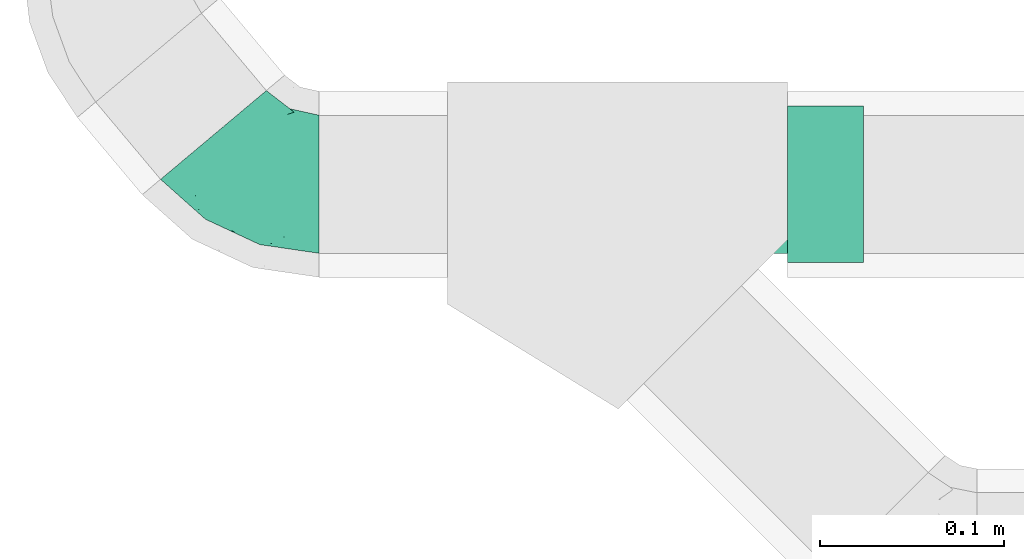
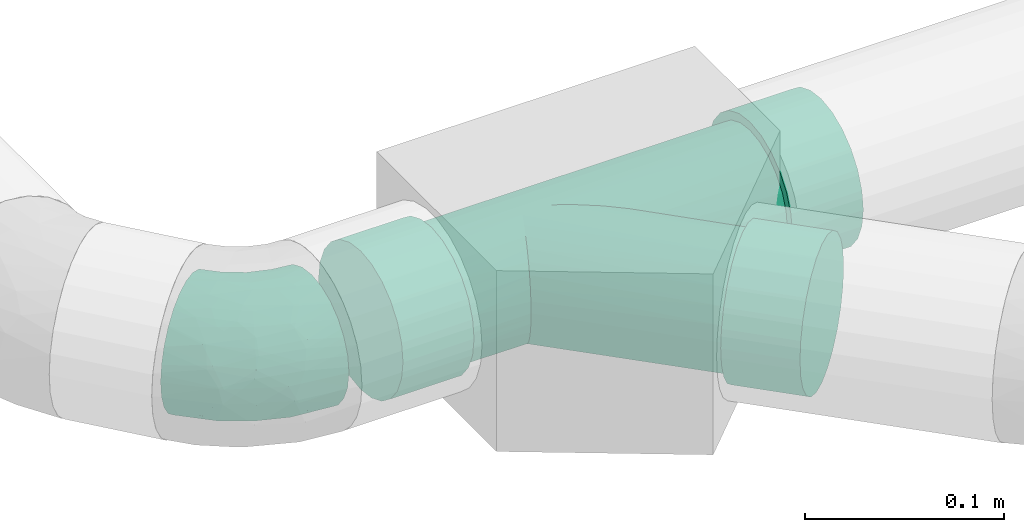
# One storey, part 143 of 156: 2 flow fittings.
"""IFC2X3 building model written with IfcOpenShell, lengths in millimetres."""

from ifc_helpers import new_model, entity, si_unit, converted_unit, derived_unit, direction, frame, origin_with_axes, place, context, subcontext, project, spatial, open_shell, surface_model, source, transform, mapped, type_object, element, save


model = new_model("IFC2X3")

# Units and contexts
model_context = context("Model", 3, precision=0.01, world=frame((0.0, 4.29681676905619e-09, 0.0)), true_north=direction((4.01073788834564e-13, 1.0)))
plan_context = context("Plan", 3, precision=0.01, world=frame((0.0, 4.29681676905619e-09, 0.0)), true_north=direction((4.01073788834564e-13, 1.0)))
body_context = subcontext(model_context, "Body", "Model", "MODEL_VIEW")
ifc_project = project(units=[converted_unit("PLANEANGLEUNIT", "DEGREE", entity("IfcPositiveLengthMeasure", 0.0174532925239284), si_unit("PLANEANGLEUNIT", "RADIAN"), dimensions=[0, 0, 0, 0, 0, 0, 0]), si_unit("AREAUNIT", "SQUARE_METRE"), si_unit("LENGTHUNIT", "METRE", prefix="MILLI"), si_unit("MASSUNIT", "GRAM", prefix="KILO"), si_unit("POWERUNIT", "WATT"), si_unit("PRESSUREUNIT", "PASCAL", prefix="KILO"), si_unit("FORCEUNIT", "NEWTON", prefix="KILO"), si_unit("ELECTRICVOLTAGEUNIT", "VOLT"), si_unit("ELECTRICCURRENTUNIT", "AMPERE"), si_unit("THERMODYNAMICTEMPERATUREUNIT", "DEGREE_CELSIUS"), si_unit("TIMEUNIT", "SECOND"), si_unit("VOLUMEUNIT", "CUBIC_METRE"), derived_unit("LINEARVELOCITYUNIT", [(si_unit("LENGTHUNIT", "METRE"), 1), (si_unit("TIMEUNIT", "SECOND"), -1)]), derived_unit("VOLUMETRICFLOWRATEUNIT", [(si_unit("VOLUMEUNIT", "CUBIC_METRE"), 1), (si_unit("TIMEUNIT", "SECOND"), -1)]), derived_unit("THERMALTRANSMITTANCEUNIT", [(si_unit("POWERUNIT", "WATT"), 1), (si_unit("THERMODYNAMICTEMPERATUREUNIT", "KELVIN"), -1), (si_unit("AREAUNIT", "SQUARE_METRE"), -1)]), derived_unit("SOUNDPRESSUREUNIT", [(si_unit("PRESSUREUNIT", "PASCAL"), 1)])], contexts=[model_context, plan_context])

# Site, building, storey
site_placement = place(None, frame((0.0, -4.29681676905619e-09, 0.0), z_axis=(0.0, 0.0, 1.0), x_axis=(1.0, 0.0, 0.0)))
site = spatial("IfcSite", under=ifc_project, at=site_placement, CompositionType="ELEMENT")
building_placement = place(site_placement, frame((0.0, 4.29681676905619e-09, 0.0), z_axis=(0.0, 0.0, 1.0), x_axis=(1.0, 0.0, 0.0)))
building = spatial("IfcBuilding", under=site, at=building_placement, Name="mc-building", CompositionType="ELEMENT")
storey_placement = place(building_placement, frame((0.0, 0.0, 205200.0), z_axis=(0.0, 0.0, 1.0), x_axis=(1.0, 0.0, 0.0)))
storey = spatial("IfcBuildingStorey", under=building, at=storey_placement, Name="Nivå D + 1,2 m", CompositionType="ELEMENT", Elevation=205200.0)

# Flow fittings
pipe_fitting_type_1 = type_object("IfcPipeFittingType", Name="magi_pipe_elbow_short_001", PredefinedType="BEND")
shared_shape_1 = source(origin_with_axes(), body_context, "Body", "SurfaceModel", [
    surface_model("IfcShellBasedSurfaceModel", [(-34.97307, 18.75, -32.47595), (-34.97307, 9.70571, -36.22222), (-34.97307, 0.0, -37.5), (-34.97307, 26.5165, -26.5165), (-34.97307, 36.22222, -9.70571), (-34.97307, 32.47595, -18.75), (-34.97307, -26.5165, -26.5165), (-34.97307, -32.47595, -18.75), (-34.97307, -18.75, -32.47595), (-34.97307, -9.70571, -36.22222), (-34.97307, -36.22222, -9.70571), (-34.97307, -37.5, 0.0), (-34.97307, -36.22222, 9.70571), (-34.97307, 36.22222, 9.70571), (-34.97307, 37.5, 0.0), (-34.97307, 26.5165, 26.5165), (-34.97307, 32.47595, 18.75), (-34.97307, 9.70571, 36.22222), (-34.97307, 18.75, 32.47595), (-34.97307, 0.0, 37.5), (-34.97307, -32.47595, 18.75), (-34.97307, -26.5165, 26.5165), (-34.97307, -18.75, 32.47595), (-34.97307, -9.70571, 36.22222), (22.48026, 26.79093, -37.5), (15.04525, 33.02964, -36.22222), (8.11693, 38.8432, -32.47595), (2.16744, 43.83541, -26.5165), (-6.24641, 50.89546, 0.0), (42.79308, 9.74645, -26.5165), (-2.39776, 47.66607, -18.75), (29.91527, 20.55222, -36.22222), (36.84359, 14.73866, -32.47595), (50.22809, 3.50774, -9.70571), (47.35828, 5.91579, -18.75), (51.20693, 2.68639, 0.0), (50.22809, 3.50774, 9.70571), (-5.26757, 50.07412, -9.70571), (2.16744, 43.83541, 26.5165), (-5.26757, 50.07412, 9.70571), (-2.39776, 47.66607, 18.75), (8.11693, 38.8432, 32.47595), (15.04525, 33.02964, 36.22222), (22.48026, 26.79093, 37.5), (42.79308, 9.74645, 26.5165), (47.35828, 5.91579, 18.75), (36.84359, 14.73866, 32.47595), (29.91527, 20.55222, 36.22222), (-16.48638, -34.7921, 0.0), (-9.03152, -32.16021, 12.77888), (-2.70771, -32.77382, 0.0), (-10.61444, -20.99697, 28.78137), (32.05029, -6.44939, 21.84466), (-16.58657, -13.55157, 34.17379), (3.7715, -8.08802, 33.58737), (-15.66101, -28.69754, 21.84466), (9.37907, 19.4541, 37.29462), (-13.94004, -3.51971, 36.96906), (-4.4298, 9.49973, 37.40061), (-20.93146, 5.32007, 37.29462), (10.01243, -21.47173, 20.43222), (22.90744, -5.36546, 28.78137), (21.04274, 3.99527, 34.17379), (-17.62466, 15.63631, 35.11753), (-12.31038, 26.3997, 30.81133), (-25.06171, 23.15143, 30.21342), (11.88682, -25.49136, 10.90317), (30.4415, -13.75364, 12.77888), (-1.62567, 34.07983, 30.21342), (-20.19362, 31.44363, 23.76954), (-17.67836, 37.91136, 15.65226), (-16.32736, 41.46996, 8.01106), (12.06949, -25.8831, 0.0), (11.65674, 8.41626, 36.96906), (-0.26693, 23.84971, 35.10495), (37.24954, -9.73463, 0.0), (-19.12489, 41.01346, 0.0), (6.81589, -14.61673, 28.91267), (-1.41162, 3.02723, 37.23941), (-8.00008, 37.98708, 23.527), (26.84669, -18.99238, 0.0), (-13.94004, -3.51971, -36.96906), (-17.67836, 37.91136, -15.65226), (-23.95744, 30.54604, -23.527), (11.65674, 8.41626, -36.96906), (-20.93146, 5.32007, -37.29462), (22.90745, -5.36546, -28.78137), (-11.10702, 35.68079, -23.76954), (30.4415, -13.75364, -12.77888), (-21.27281, 39.16386, -8.01106), (-0.6492, 23.5521, -35.11753), (10.01243, -21.47173, -20.43222), (32.05029, -6.44939, -21.84466), (-18.09836, 15.53478, -35.10495), (-9.03152, -32.16021, -12.77888), (-15.66101, -28.69754, -21.84466), (-10.61444, -20.99697, -28.78137), (6.81589, -14.61673, -28.91267), (-16.58657, -13.55157, -34.17379), (-1.41162, 3.02723, -37.23941), (-4.4298, 9.49973, -37.40061), (3.7715, -8.08802, -33.58737), (-1.62567, 34.07983, -30.21342), (-12.31038, 26.3997, -30.81133), (-25.06171, 23.15142, -30.21342), (9.37907, 19.4541, -37.29462), (21.04274, 3.99527, -34.17379), (11.88682, -25.49136, -10.90317)], [open_shell([[[0, 1, 2]], [[3, 0, 2]], [[4, 5, 3]], [[6, 3, 2]], [[4, 3, 7]], [[8, 6, 9]], [[6, 2, 9]], [[10, 11, 7]], [[3, 6, 7]], [[7, 11, 12]], [[12, 4, 7]], [[13, 14, 15]], [[16, 13, 15]], [[17, 18, 15]], [[14, 17, 15]], [[19, 17, 14]], [[20, 21, 12]], [[22, 12, 21]], [[23, 19, 22]], [[12, 22, 19]], [[19, 14, 12]], [[4, 12, 14]], [[24, 25, 26]], [[24, 26, 27]], [[28, 29, 27]], [[27, 29, 24]], [[30, 28, 27]], [[31, 29, 32]], [[31, 24, 29]], [[29, 33, 34]], [[35, 33, 36]], [[33, 29, 36]], [[28, 30, 37]], [[38, 28, 39]], [[38, 39, 40]], [[38, 41, 42]], [[38, 36, 29]], [[43, 38, 42]], [[36, 44, 45]], [[44, 36, 46]], [[46, 43, 47]], [[46, 36, 38]], [[38, 43, 46]], [[38, 29, 28]], [[12, 48, 49]], [[48, 50, 49]], [[22, 21, 51]], [[45, 44, 52]], [[53, 51, 54]], [[55, 51, 21]], [[43, 42, 56]], [[23, 22, 53]], [[57, 58, 59]], [[19, 23, 57]], [[60, 52, 61]], [[46, 47, 62]], [[59, 17, 19]], [[63, 64, 65]], [[66, 67, 60]], [[41, 38, 68]], [[52, 44, 61]], [[65, 15, 18]], [[21, 20, 55]], [[16, 69, 70]], [[13, 16, 70]], [[60, 49, 66]], [[71, 14, 13]], [[60, 51, 55]], [[50, 72, 66]], [[18, 17, 63]], [[43, 56, 73]], [[44, 46, 61]], [[62, 73, 54]], [[43, 73, 47]], [[58, 74, 63]], [[45, 67, 36]], [[58, 56, 74]], [[61, 46, 62]], [[74, 41, 68]], [[67, 75, 36]], [[20, 49, 55]], [[59, 63, 17]], [[52, 60, 67]], [[13, 70, 71]], [[49, 20, 12]], [[76, 71, 28]], [[51, 77, 54]], [[39, 71, 70]], [[78, 54, 73]], [[70, 69, 79]], [[40, 39, 70]], [[40, 79, 38]], [[53, 57, 23]], [[42, 41, 74]], [[74, 64, 63]], [[16, 15, 69]], [[57, 78, 58]], [[57, 59, 19]], [[60, 55, 49]], [[77, 60, 61]], [[67, 45, 52]], [[65, 69, 15]], [[64, 68, 79]], [[51, 53, 22]], [[57, 53, 54]], [[73, 62, 47]], [[61, 62, 54]], [[12, 11, 48]], [[75, 67, 80]], [[75, 35, 36]], [[63, 59, 58]], [[74, 56, 42]], [[73, 56, 58]], [[66, 80, 67]], [[70, 79, 40]], [[64, 79, 69]], [[63, 65, 18]], [[69, 65, 64]], [[79, 68, 38]], [[74, 68, 64]], [[60, 77, 51]], [[61, 54, 77]], [[28, 71, 39]], [[71, 76, 14]], [[54, 78, 57]], [[73, 58, 78]], [[50, 66, 49]], [[80, 66, 72]], [[81, 9, 2]], [[82, 83, 5]], [[24, 31, 84]], [[1, 85, 2]], [[5, 83, 3]], [[32, 29, 86]], [[87, 83, 82]], [[88, 34, 33]], [[4, 89, 82]], [[26, 25, 90]], [[91, 86, 92]], [[0, 93, 1]], [[94, 48, 10]], [[91, 95, 96]], [[91, 92, 88]], [[10, 7, 94]], [[6, 8, 96]], [[97, 91, 96]], [[33, 35, 75]], [[6, 95, 7]], [[98, 8, 9]], [[37, 30, 82]], [[84, 99, 100]], [[30, 27, 87]], [[14, 76, 89]], [[34, 88, 92]], [[28, 37, 89]], [[99, 101, 81]], [[27, 26, 102]], [[82, 5, 4]], [[30, 87, 82]], [[98, 96, 8]], [[103, 102, 90]], [[85, 81, 2]], [[103, 90, 93]], [[3, 104, 0]], [[95, 6, 96]], [[105, 25, 24]], [[106, 31, 32]], [[50, 94, 107]], [[29, 92, 86]], [[101, 106, 86]], [[29, 34, 92]], [[100, 105, 84]], [[88, 33, 75]], [[106, 84, 31]], [[88, 75, 80]], [[105, 90, 25]], [[100, 85, 93]], [[107, 94, 91]], [[95, 91, 94]], [[86, 97, 101]], [[93, 0, 104]], [[37, 82, 89]], [[100, 93, 90]], [[98, 81, 101]], [[94, 7, 95]], [[102, 87, 27]], [[103, 104, 83]], [[81, 98, 9]], [[96, 98, 101]], [[86, 106, 32]], [[84, 106, 101]], [[48, 94, 50]], [[48, 11, 10]], [[93, 85, 1]], [[81, 85, 100]], [[84, 105, 24]], [[90, 105, 100]], [[107, 91, 88]], [[72, 107, 80]], [[103, 83, 87]], [[83, 104, 3]], [[93, 104, 103]], [[90, 102, 26]], [[87, 102, 103]], [[91, 97, 86]], [[96, 101, 97]], [[14, 89, 4]], [[89, 76, 28]], [[101, 99, 84]], [[81, 100, 99]], [[80, 107, 88]], [[50, 107, 72]]])]),
])
flow_fitting_1_placement = place(storey_placement, frame((338482.52781, 460509.27805, 4098.75644), z_axis=(0.0, 0.0, 1.0), x_axis=(0.642788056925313, -0.766044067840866, 0.0)))
element("IfcFlowFitting", 1, at=flow_fitting_1_placement, inside=storey, type_object=pipe_fitting_type_1, Name="magi_pipe_elbow_short_001", context=body_context, shape_type="MappedRepresentation", body=[
    mapped(shared_shape_1, transform((0.0, 0.0, 0.0), scale=1.0)),
])
pipe_fitting_type_2 = type_object("IfcPipeFittingType", Name="magi_sewer_tee_wye_NOR", PredefinedType="JUNCTION")
shared_shape_2 = source(origin_with_axes(), body_context, "Body", "SurfaceModel", [
    surface_model("IfcShellBasedSurfaceModel", [(92.7665, 21.25, -36.80608), (92.7665, -10.99981, -41.05185), (92.7665, 10.99981, -41.05185), (92.7665, 36.80608, -21.25), (92.7665, 30.05204, -30.05204), (92.7665, 41.05185, -10.99981), (92.7665, 42.5, 0.0), (92.7665, -41.05185, -10.99981), (92.7665, -21.25, -36.80608), (92.7665, 0.0, -42.5), (92.7665, -30.05204, -30.05204), (92.7665, -36.80608, -21.25), (92.7665, 41.05185, 10.99981), (92.7665, 36.80608, 21.25), (92.7665, 30.05204, 30.05204), (92.7665, 10.99981, 41.05185), (92.7665, -36.80608, 21.25), (92.7665, 21.25, 36.80608), (92.7665, -10.99981, 41.05185), (92.7665, 0.0, 42.5), (92.7665, -41.05185, 10.99981), (92.7665, -42.5, 0.0), (92.7665, -30.05204, 30.05204), (92.7665, -21.25, 36.80608), (51.5165, 10.99981, 41.05185), (51.5165, -10.99981, 41.05185), (51.5165, 0.0, 42.5), (51.5165, 41.05185, 10.99981), (51.5165, 21.25, 36.80608), (51.5165, 30.05204, 30.05204), (51.5165, 36.80608, 21.25), (51.5165, -41.05185, -10.99981), (51.5165, -42.5, 0.0), (51.5165, -30.05204, 30.05204), (51.5165, -21.25, 36.80608), (51.5165, -36.80608, 21.25), (51.5165, -41.05185, 10.99981), (51.5165, 42.5, 0.0), (51.5165, 41.05185, -10.99981), (51.5165, 36.80608, -21.25), (51.5165, 21.25, -36.80608), (51.5165, 30.05204, -30.05204), (51.5165, -10.99981, -41.05185), (51.5165, 10.99981, -41.05185), (51.5165, -30.05204, -30.05204), (51.5165, -36.80608, -21.25), (51.5165, -21.25, -36.80608), (51.5165, 0.0, -42.5), (-81.69418, -81.69418, -42.5), (-89.47221, -73.91613, -41.05185), (-73.91613, -89.47221, -41.05185), (-66.66816, -96.7202, -36.80608), (-60.44418, -102.94417, -30.05204), (-52.66613, -110.72221, -10.99981), (-55.66835, -107.72001, -21.25), (-107.72001, -55.66835, -21.25), (-107.72001, -55.66835, 21.25), (-102.94417, -60.44418, -30.05204), (-96.7202, -66.66816, -36.80608), (-110.72221, -52.66613, -10.99981), (-111.74621, -51.64214, 0.0), (-110.72221, -52.66613, 10.99981), (-52.66613, -110.72221, 10.99981), (-60.44418, -102.94417, 30.05204), (-55.66835, -107.72001, 21.25), (-66.66816, -96.7202, 36.80608), (-96.7202, -66.66816, 36.80608), (-81.69418, -81.69418, 42.5), (-73.91613, -89.47221, 41.05185), (-102.94417, -60.44418, 30.05204), (-89.47221, -73.91613, 41.05185), (-51.64214, -111.74621, 0.0), (-103.08429, -118.64037, -41.05185), (-118.64037, -103.08429, -41.05185), (-110.86233, -110.86233, -42.5), (-84.8365, -136.88816, -21.25), (-95.83631, -125.88835, -36.80608), (-81.83429, -139.89037, -10.99981), (-89.61233, -132.11233, -30.05204), (-132.11233, -89.61233, 30.05204), (-125.88835, -95.83631, -36.80608), (-136.88816, -84.8365, -21.25), (-132.11233, -89.61233, -30.05204), (-140.91436, -80.81029, 0.0), (-139.89037, -81.83429, -10.99981), (-81.83429, -139.89037, 10.99981), (-89.61233, -132.11233, 30.05204), (-84.8365, -136.88816, 21.25), (-125.88835, -95.83631, 36.80608), (-95.83631, -125.88835, 36.80608), (-110.86233, -110.86233, 42.5), (-103.08429, -118.64037, 41.05185), (-136.88816, -84.8365, 21.25), (-139.89037, -81.83429, 10.99981), (-118.64037, -103.08429, 41.05185), (-80.81029, -140.91436, 0.0), (-174.46068, -21.25, -36.80608), (-174.46068, 10.99981, -41.05185), (-174.46068, -10.99981, -41.05185), (-174.46068, -36.80608, -21.25), (-174.46068, -30.05204, -30.05204), (-174.46068, -41.05185, -10.99981), (-174.46068, -42.5, 0.0), (-174.46068, 41.05185, -10.99981), (-174.46068, 21.25, -36.80608), (-174.46068, 0.0, -42.5), (-174.46068, 30.05204, -30.05204), (-174.46068, 36.80608, -21.25), (-174.46068, -41.05185, 10.99981), (-174.46068, -36.80608, 21.25), (-174.46068, -30.05204, 30.05204), (-174.46068, -10.99981, 41.05185), (-174.46068, 36.80608, 21.25), (-174.46068, -21.25, 36.80608), (-174.46068, 10.99981, 41.05185), (-174.46068, 0.0, 42.5), (-174.46068, 41.05185, 10.99981), (-174.46068, 42.5, 0.0), (-174.46068, 30.05204, 30.05204), (-174.46068, 21.25, 36.80608), (-133.21068, -10.99981, 41.05185), (-133.21068, 10.99981, 41.05185), (-133.21068, 0.0, 42.5), (-133.21068, -41.05185, 10.99981), (-133.21068, -21.25, 36.80608), (-133.21068, -30.05204, 30.05204), (-133.21068, -36.80608, 21.25), (-133.21068, 41.05185, -10.99981), (-133.21068, 42.5, 0.0), (-133.21068, 30.05204, 30.05204), (-133.21068, 21.25, 36.80608), (-133.21068, 36.80608, 21.25), (-133.21068, 41.05185, 10.99981), (-133.21068, -42.5, 0.0), (-133.21068, -41.05185, -10.99981), (-133.21068, -36.80608, -21.25), (-133.21068, -21.25, -36.80608), (-133.21068, -30.05204, -30.05204), (-133.21068, 10.99981, -41.05185), (-133.21068, -10.99981, -41.05185), (-133.21068, 30.05204, -30.05204), (-133.21068, 36.80608, -21.25), (-133.21068, 21.25, -36.80608), (-133.21068, 0.0, -42.5), (51.5165, 18.75, -32.47595), (51.5165, -37.5, 0.0), (51.5165, 9.70571, -36.22222), (51.5165, 37.5, 0.0), (51.5165, 26.5165, -26.5165), (51.5165, 36.22222, -9.70571), (51.5165, 32.47595, -18.75), (51.5165, -36.22222, -9.70571), (51.5165, 0.0, -37.5), (51.5165, -18.75, -32.47595), (51.5165, -9.70571, -36.22222), (51.5165, -32.47595, -18.75), (51.5165, -26.5165, -26.5165), (51.5165, 36.22222, 9.70571), (51.5165, 32.47595, 18.75), (51.5165, 26.5165, 26.5165), (51.5165, 18.75, 32.47595), (51.5165, 9.70571, 36.22222), (51.5165, 0.0, 37.5), (51.5165, -32.47595, 18.75), (51.5165, -36.22222, 9.70571), (51.5165, -26.5165, 26.5165), (51.5165, -18.75, 32.47595), (51.5165, -9.70571, 36.22222), (-133.21068, 0.0, 37.5), (-133.21068, 9.70571, 36.22222), (-133.21068, 18.75, 32.47595), (-133.21068, 26.5165, 26.5165), (-133.21068, 32.47595, 18.75), (-133.21068, 36.22222, 9.70571), (-133.21068, -26.5165, 26.5165), (-133.21068, -36.22222, -9.70571), (-133.21068, -18.75, 32.47595), (-133.21068, -9.70571, 36.22222), (-133.21068, -32.47595, 18.75), (-133.21068, -37.5, 0.0), (-133.21068, -36.22222, 9.70571), (-133.21068, 36.22222, -9.70571), (-133.21068, 9.70571, -36.22222), (-133.21068, 32.47595, -18.75), (-133.21068, 26.5165, -26.5165), (-133.21068, 18.75, -32.47595), (-133.21068, -32.47595, -18.75), (-133.21068, -18.75, -32.47595), (-133.21068, -26.5165, -26.5165), (-133.21068, 0.0, -37.5), (-133.21068, -9.70571, -36.22222), (-133.21068, 37.5, 0.0), (-80.23377, -33.23392, -16.71755), (-133.21068, -34.34909, -14.22786), (-87.94383, -36.42753, -6.2504), (-133.21068, -36.86111, -4.85286), (-90.53301, -37.5, 0.0), (15.40493, -37.19079, -3.39111), (51.5165, -36.86111, -4.85286), (-85.35466, -35.35505, -12.5008), (-75.11289, -31.11278, -20.93431), (-133.21068, -29.49623, -22.63325), (-63.40001, -26.26114, -26.76943), (-51.0967, -21.16495, -30.95634), (11.69486, -28.2339, -24.67989), (10.72034, -25.8812, -26.94011), (15.27685, -36.88159, -6.78221), (-38.49666, -15.94584, -33.94083), (14.89983, -35.97138, -10.04251), (14.52281, -35.06116, -13.30281), (15.53301, -37.5, 0.0), (51.5165, -34.34909, -14.22786), (12.50235, -30.18334, -22.00606), (51.5165, -29.49623, -22.63325), (9.74582, -23.52849, -29.20034), (13.30983, -32.13277, -19.33223), (51.5165, -22.63325, -29.49623), (7.53342, -18.1873, -32.79439), (5.12724, -12.37825, -35.39815), (51.5165, -14.22786, -34.34909), (-12.8873, -5.3381, -37.11812), (-25.73683, -10.66054, -35.95279), (0.0, 0.0, -37.5), (51.5165, -4.85286, -36.86111), (2.59451, -6.2637, -36.97318), (0.0, 0.0, 37.5), (-12.8873, -5.3381, 37.11812), (14.52281, -35.06116, 13.30281), (51.5165, -34.34909, 14.22786), (-25.73683, -10.66054, 35.95279), (-38.49666, -15.94584, 33.94083), (9.74582, -23.52849, 29.20034), (51.5165, -22.63325, 29.49623), (-87.94383, -36.42753, 6.2504), (-133.21068, -36.86111, 4.85286), (2.59451, -6.2637, 36.97318), (51.5165, -4.85286, 36.86111), (5.12724, -12.37825, 35.39815), (12.50235, -30.18334, 22.00606), (13.30983, -32.13277, 19.33223), (15.40493, -37.19079, 3.39111), (51.5165, -14.22786, 34.34909), (7.53342, -18.1873, 32.79439), (-51.0967, -21.16495, 30.95634), (-63.40001, -26.26114, 26.76943), (-133.21068, -29.49623, 22.63325), (-75.11289, -31.11278, 20.93431), (-80.23377, -33.23392, 16.71755), (-133.21068, -34.34909, 14.22786), (-85.35466, -35.35505, 12.5008), (14.89983, -35.97138, 10.04251), (10.72034, -25.8812, 26.94011), (11.69486, -28.2339, 24.67989), (51.5165, -29.49623, 22.63325), (51.5165, -36.86111, 4.85286), (15.27685, -36.88159, 6.78221), (-81.69418, -81.69418, -37.5), (-74.8312, -88.55715, -36.22222), (-68.43592, -94.95243, -32.47595), (-107.30715, -56.0812, -9.70571), (-58.73021, -104.65814, -18.75), (-62.94417, -100.44418, -26.5165), (-58.73021, -104.65814, 18.75), (-94.95243, -68.43592, -32.47595), (-100.44418, -62.94417, -26.5165), (-88.55715, -74.8312, -36.22222), (-104.65814, -58.73021, -18.75), (-100.44418, -62.94417, 26.5165), (-108.21068, -55.17767, 0.0), (-56.0812, -107.30715, -9.70571), (-55.17767, -108.21068, 0.0), (-56.0812, -107.30715, 9.70571), (-81.69418, -81.69418, 37.5), (-62.94417, -100.44418, 26.5165), (-68.43592, -94.95243, 32.47595), (-74.8312, -88.55715, 36.22222), (-104.65814, -58.73021, 18.75), (-107.30715, -56.0812, 9.70571), (-88.55715, -74.8312, 36.22222), (-94.95243, -68.43592, 32.47595), (-107.75891, -55.62944, 4.85286), (-105.98265, -57.4057, 14.22786), (-107.75891, -55.62944, -4.85286), (-105.98265, -57.4057, -14.22786)], [open_shell([[[0, 1, 2]], [[3, 0, 4]], [[3, 5, 6]], [[3, 6, 0]], [[1, 0, 6]], [[1, 7, 8]], [[1, 9, 2]], [[10, 7, 11]], [[7, 10, 8]], [[6, 7, 1]], [[6, 12, 7]], [[12, 13, 14]], [[12, 14, 15]], [[7, 15, 16]], [[15, 14, 17]], [[18, 15, 19]], [[16, 20, 7]], [[21, 7, 20]], [[22, 18, 23]], [[18, 22, 16]], [[18, 16, 15]], [[15, 7, 12]], [[24, 25, 26]], [[27, 24, 28]], [[29, 30, 27]], [[29, 27, 28]], [[31, 32, 24]], [[25, 33, 34]], [[33, 25, 35]], [[25, 36, 35]], [[36, 25, 32]], [[25, 24, 32]], [[24, 27, 31]], [[37, 38, 39]], [[37, 39, 40]], [[40, 31, 27]], [[40, 39, 41]], [[42, 40, 43]], [[31, 44, 45]], [[44, 31, 46]], [[31, 42, 46]], [[31, 40, 42]], [[43, 47, 42]], [[40, 27, 37]], [[31, 7, 32]], [[45, 11, 31]], [[46, 8, 44]], [[44, 10, 45]], [[31, 11, 7]], [[7, 21, 32]], [[9, 1, 42]], [[1, 8, 46]], [[10, 44, 8]], [[10, 11, 45]], [[42, 1, 46]], [[42, 47, 9]], [[2, 43, 40]], [[41, 0, 40]], [[3, 39, 38]], [[41, 39, 4]], [[5, 38, 37]], [[43, 2, 9]], [[40, 0, 2]], [[41, 4, 0]], [[39, 3, 4]], [[5, 3, 38]], [[37, 6, 5]], [[43, 9, 47]], [[27, 12, 37]], [[30, 13, 27]], [[17, 29, 28]], [[30, 29, 14]], [[15, 28, 24]], [[27, 13, 12]], [[12, 6, 37]], [[15, 26, 19]], [[15, 17, 28]], [[14, 29, 17]], [[14, 13, 30]], [[26, 15, 24]], [[18, 25, 34]], [[33, 23, 34]], [[16, 35, 36]], [[33, 35, 22]], [[20, 36, 32]], [[34, 23, 18]], [[18, 19, 25]], [[22, 23, 33]], [[35, 16, 22]], [[20, 16, 36]], [[32, 21, 20]], [[25, 19, 26]], [[48, 49, 50]], [[51, 50, 52]], [[53, 54, 52]], [[50, 53, 52]], [[50, 55, 56]], [[57, 55, 58]], [[49, 58, 55]], [[59, 60, 55]], [[50, 49, 55]], [[60, 61, 55]], [[53, 50, 62]], [[62, 50, 63]], [[64, 62, 63]], [[65, 63, 66]], [[63, 50, 66]], [[65, 67, 68]], [[69, 66, 56]], [[56, 55, 61]], [[66, 70, 65]], [[66, 50, 56]], [[67, 65, 70]], [[71, 53, 62]], [[72, 73, 74]], [[75, 72, 76]], [[75, 77, 72]], [[75, 76, 78]], [[79, 73, 72]], [[80, 81, 82]], [[81, 80, 73]], [[81, 83, 84]], [[83, 81, 73]], [[83, 73, 79]], [[79, 72, 77]], [[77, 85, 86]], [[86, 85, 87]], [[88, 86, 89]], [[86, 79, 77]], [[90, 89, 91]], [[83, 92, 93]], [[79, 92, 83]], [[88, 90, 94]], [[88, 79, 86]], [[90, 88, 89]], [[77, 95, 85]], [[93, 60, 83]], [[92, 61, 93]], [[69, 79, 88]], [[92, 79, 56]], [[66, 88, 94]], [[92, 56, 61]], [[61, 60, 93]], [[90, 67, 70]], [[69, 88, 66]], [[69, 56, 79]], [[94, 70, 66]], [[70, 94, 90]], [[65, 91, 89]], [[86, 63, 89]], [[62, 87, 85]], [[86, 87, 64]], [[71, 85, 95]], [[91, 68, 90]], [[91, 65, 68]], [[90, 68, 67]], [[89, 63, 65]], [[86, 64, 63]], [[62, 64, 87]], [[85, 71, 62]], [[77, 71, 95]], [[75, 53, 77]], [[78, 76, 52]], [[75, 78, 54]], [[50, 76, 72]], [[75, 54, 53]], [[53, 71, 77]], [[51, 52, 76]], [[50, 72, 48]], [[52, 54, 78]], [[76, 50, 51]], [[72, 74, 48]], [[58, 73, 80]], [[82, 57, 80]], [[59, 81, 84]], [[82, 81, 55]], [[60, 84, 83]], [[73, 49, 74]], [[73, 58, 49]], [[74, 49, 48]], [[80, 57, 58]], [[82, 55, 57]], [[59, 55, 81]], [[84, 60, 59]], [[96, 97, 98]], [[99, 96, 100]], [[99, 101, 102]], [[99, 102, 96]], [[97, 96, 102]], [[97, 103, 104]], [[97, 105, 98]], [[106, 103, 107]], [[103, 106, 104]], [[102, 103, 97]], [[102, 108, 103]], [[108, 109, 110]], [[108, 110, 111]], [[103, 111, 112]], [[111, 110, 113]], [[114, 111, 115]], [[112, 116, 103]], [[117, 103, 116]], [[118, 114, 119]], [[114, 118, 112]], [[114, 112, 111]], [[111, 103, 108]], [[120, 121, 122]], [[123, 120, 124]], [[125, 126, 123]], [[125, 123, 124]], [[127, 128, 120]], [[121, 129, 130]], [[129, 121, 131]], [[121, 132, 131]], [[132, 121, 128]], [[121, 120, 128]], [[120, 123, 127]], [[133, 134, 135]], [[133, 135, 136]], [[136, 127, 123]], [[136, 135, 137]], [[138, 136, 139]], [[127, 140, 141]], [[140, 127, 142]], [[127, 138, 142]], [[127, 136, 138]], [[139, 143, 138]], [[136, 123, 133]], [[127, 103, 128]], [[141, 107, 127]], [[142, 104, 140]], [[140, 106, 141]], [[127, 107, 103]], [[103, 117, 128]], [[105, 97, 138]], [[97, 104, 142]], [[106, 140, 104]], [[106, 107, 141]], [[138, 97, 142]], [[138, 143, 105]], [[98, 139, 136]], [[137, 96, 136]], [[99, 135, 134]], [[137, 135, 100]], [[101, 134, 133]], [[139, 98, 105]], [[136, 96, 98]], [[137, 100, 96]], [[135, 99, 100]], [[101, 99, 134]], [[133, 102, 101]], [[139, 105, 143]], [[123, 108, 133]], [[126, 109, 123]], [[113, 125, 124]], [[126, 125, 110]], [[111, 124, 120]], [[123, 109, 108]], [[108, 102, 133]], [[111, 122, 115]], [[111, 113, 124]], [[110, 125, 113]], [[110, 109, 126]], [[122, 111, 120]], [[114, 121, 130]], [[129, 119, 130]], [[112, 131, 132]], [[129, 131, 118]], [[116, 132, 128]], [[130, 119, 114]], [[114, 115, 121]], [[118, 119, 129]], [[131, 112, 118]], [[116, 112, 132]], [[128, 117, 116]], [[121, 115, 122]], [[144, 145, 146]], [[147, 144, 148]], [[149, 147, 148]], [[149, 148, 150]], [[151, 146, 145]], [[152, 153, 154]], [[152, 146, 153]], [[153, 155, 156]], [[155, 153, 151]], [[146, 151, 153]], [[157, 144, 147]], [[157, 158, 159]], [[157, 159, 160]], [[160, 161, 162]], [[160, 145, 144]], [[145, 160, 162]], [[145, 163, 164]], [[163, 145, 165]], [[162, 166, 165]], [[165, 145, 162]], [[167, 166, 162]], [[160, 144, 157]], [[168, 169, 170]], [[168, 170, 171]], [[171, 172, 173]], [[171, 173, 168]], [[174, 168, 175]], [[168, 176, 177]], [[168, 174, 176]], [[178, 179, 180]], [[179, 178, 174]], [[174, 175, 179]], [[175, 168, 173]], [[175, 173, 181]], [[182, 181, 183]], [[184, 185, 182]], [[184, 182, 183]], [[175, 181, 182]], [[186, 187, 188]], [[187, 186, 175]], [[187, 189, 190]], [[187, 175, 182]], [[182, 189, 187]], [[181, 173, 191]], [[186, 192, 193]], [[175, 194, 195]], [[195, 196, 179]], [[145, 197, 198]], [[192, 199, 193]], [[200, 201, 202]], [[202, 201, 188]], [[203, 188, 187]], [[156, 204, 205]], [[203, 202, 188]], [[206, 151, 198]], [[175, 199, 194]], [[203, 187, 207]], [[200, 186, 201]], [[151, 206, 208]], [[208, 209, 151]], [[198, 197, 206]], [[197, 145, 210]], [[209, 211, 151]], [[155, 212, 213]], [[196, 195, 194]], [[199, 175, 193]], [[205, 214, 156]], [[204, 213, 212]], [[155, 215, 212]], [[156, 214, 216]], [[217, 153, 216]], [[155, 211, 215]], [[186, 200, 192]], [[218, 219, 217]], [[190, 189, 220]], [[204, 156, 213]], [[221, 207, 190]], [[220, 221, 190]], [[218, 154, 219]], [[220, 189, 222]], [[190, 207, 187]], [[148, 184, 183]], [[150, 183, 181]], [[146, 182, 185]], [[144, 185, 184]], [[182, 222, 189]], [[149, 181, 191]], [[222, 223, 224]], [[218, 224, 154]], [[217, 216, 214]], [[154, 224, 223]], [[153, 217, 219]], [[222, 146, 152]], [[152, 223, 222]], [[182, 146, 222]], [[144, 146, 185]], [[144, 184, 148]], [[150, 148, 183]], [[149, 150, 181]], [[191, 147, 149]], [[215, 211, 209]], [[171, 158, 172]], [[172, 158, 173]], [[157, 191, 173]], [[159, 171, 170]], [[168, 225, 169]], [[226, 168, 177]], [[227, 164, 228]], [[229, 226, 177]], [[230, 229, 177]], [[231, 165, 232]], [[177, 176, 230]], [[170, 169, 160]], [[168, 226, 225]], [[233, 180, 234]], [[157, 173, 158]], [[160, 159, 170]], [[158, 171, 159]], [[147, 191, 157]], [[225, 235, 236]], [[237, 167, 235]], [[163, 238, 239]], [[145, 240, 210]], [[225, 162, 161]], [[225, 236, 162]], [[167, 237, 241]], [[161, 160, 169]], [[225, 161, 169]], [[242, 241, 237]], [[176, 174, 243]], [[244, 245, 246]], [[235, 167, 236]], [[244, 243, 174]], [[247, 248, 249]], [[245, 244, 174]], [[243, 230, 176]], [[249, 248, 180]], [[234, 196, 233]], [[164, 227, 250]], [[247, 246, 178]], [[233, 249, 180]], [[248, 247, 178]], [[178, 246, 245]], [[251, 252, 165]], [[165, 231, 251]], [[232, 166, 242]], [[253, 165, 252]], [[238, 163, 253]], [[196, 234, 179]], [[232, 242, 231]], [[253, 252, 238]], [[254, 255, 240]], [[145, 254, 240]], [[250, 255, 164]], [[228, 163, 239]], [[164, 255, 254]], [[228, 239, 227]], [[166, 241, 242]], [[256, 257, 258]], [[259, 256, 258]], [[259, 258, 260]], [[260, 258, 261]], [[260, 262, 259]], [[263, 259, 264]], [[259, 263, 265]], [[264, 259, 266]], [[265, 256, 259]], [[259, 267, 268]], [[260, 269, 270]], [[270, 271, 262]], [[259, 262, 267]], [[272, 273, 274]], [[262, 273, 272]], [[274, 275, 272]], [[268, 276, 277]], [[267, 276, 268]], [[267, 278, 279]], [[278, 267, 272]], [[262, 272, 267]], [[260, 270, 262]], [[280, 277, 233]], [[268, 280, 196]], [[267, 279, 243]], [[246, 276, 267]], [[281, 276, 247]], [[230, 279, 278]], [[196, 280, 233]], [[249, 281, 247]], [[243, 244, 267]], [[246, 267, 244]], [[229, 230, 278]], [[272, 225, 226]], [[229, 278, 226]], [[243, 279, 230]], [[276, 246, 247]], [[226, 278, 272]], [[274, 237, 275]], [[275, 235, 272]], [[231, 274, 273]], [[255, 271, 270]], [[273, 262, 252]], [[271, 227, 262]], [[270, 210, 255]], [[231, 242, 274]], [[237, 235, 275]], [[242, 237, 274]], [[249, 277, 281]], [[255, 227, 271]], [[277, 249, 233]], [[239, 252, 262]], [[227, 239, 262]], [[231, 273, 252]], [[272, 235, 225]], [[210, 270, 206]], [[269, 206, 270]], [[261, 258, 214]], [[260, 261, 204]], [[260, 209, 269]], [[218, 258, 257]], [[196, 282, 268]], [[209, 206, 269]], [[194, 259, 282]], [[204, 215, 260]], [[209, 260, 215]], [[217, 214, 258]], [[224, 218, 257]], [[217, 258, 218]], [[204, 261, 214]], [[192, 283, 199]], [[257, 256, 224]], [[263, 207, 265]], [[265, 220, 256]], [[203, 263, 264]], [[196, 194, 282]], [[264, 266, 200]], [[259, 199, 283]], [[194, 199, 259]], [[207, 221, 265]], [[220, 222, 256]], [[221, 220, 265]], [[283, 192, 266]], [[192, 200, 266]], [[202, 203, 264]], [[200, 202, 264]], [[207, 263, 203]], [[256, 222, 224]]])]),
])
flow_fitting_2_placement = place(storey_placement, frame((338638.7041, 460509.27805, 4098.23676), z_axis=(0.0, 0.0, -1.0), x_axis=(-1.0, 0.0, 0.0)))
element("IfcFlowFitting", 2, at=flow_fitting_2_placement, inside=storey, type_object=pipe_fitting_type_2, Name="magi_sewer_tee_wye_NOR", context=body_context, shape_type="MappedRepresentation", body=[
    mapped(shared_shape_2, transform((0.0, 0.0, 0.0), scale=1.0)),
])

save(model, "model.ifc")
